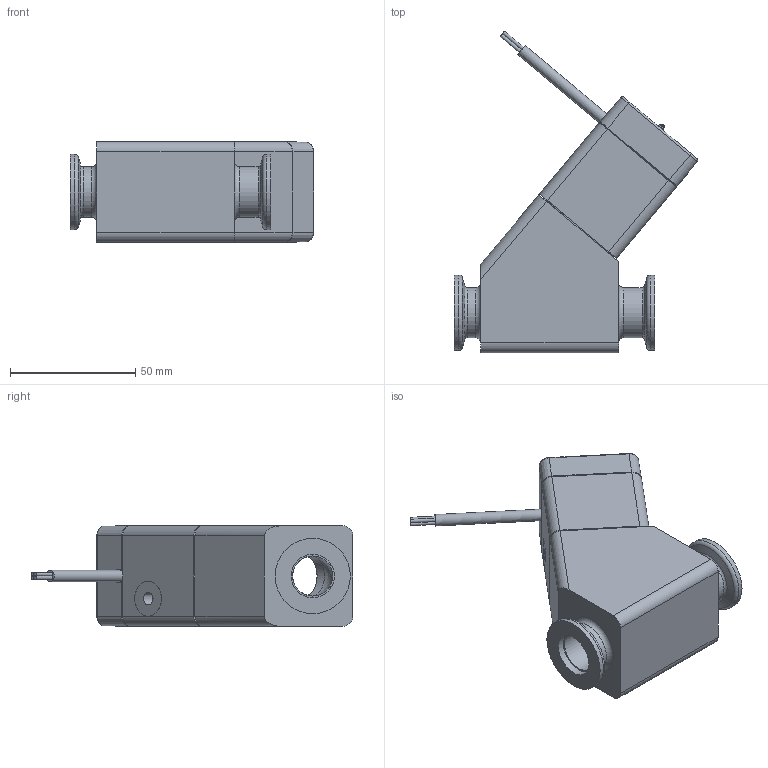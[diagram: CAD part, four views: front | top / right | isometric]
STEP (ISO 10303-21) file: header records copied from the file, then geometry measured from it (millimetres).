
FILE_DESCRIPTION(/* description */ (''),/* implementation_level */ '2;1');
FILE_NAME(/* name */ '1072598406_203.stp',/* time_stamp */ '2013-10-23T08:58:14+02:00',/* author */ (''),/* organization */ (''),/* preprocessor_version */ 'ST-DEVELOPER v11',/* originating_system */ 'SIEMENS PLM Software NX 7.5',/* authorisation */ '');
FILE_SCHEMA (('AP203_CONFIGURATION_CONTROLLED_3D_DESIGN_OF_MECHANICAL_PARTS_AND_ASSEMBLIES_MIM_LF'));
Length unit declared in the file: millimetre
Products named in the file (10): 236208.2; 233364; 239888_6.1; 236204_1.1; 466052; 244224.1; 243880.7; 244168.6; 402885_NX-ARRAGMNTLAGEMELDERZEICHNUNG; 326797.4
Assembly tree (14 placements, depth 3):
  326797.4
    244168.6
    243880.7
    244224.1  x4
    466052
    402885_NX-ARRAGMNTLAGEMELDERZEICHNUNG
      236204_1.1  x2
      239888_6.1
      233364
      236208.2  x2
Bounding box: 97.1 x 128.26 x 40 mm (x, y, z)
Volume: 129056.2 mm3; surface area: 55874.7 mm2
Topology: 21 solids, 21 shells, 597 faces, 1430 edges, 931 vertices
Faces by surface type: plane 337, cylinder 149, cone 68, bspline 25, torus 14, sphere 4
Full cylindrical faces by diameter (mm): 1.4 x8, 2 x7, 2.2 x4, 2.3 x1, 2.36 x4, 2.4 x4, 2.5 x7, 3 x19, 3.4 x4, 4 x2, 4.2 x1, 4.6 x1, 4.7 x3, 4.8 x1, 5 x2, 5.5 x4, 5.6 x2, 6 x4, 6.013 x2, 6.5 x4, 8.85 x1, 14 x1, 16 x3, 17 x1, 17.3 x2, 20 x3, 28 x1, 30 x2, 30.08 x1, 32.35 x1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
Entity records: 16091 total; most frequent: CARTESIAN_POINT 3278, DIRECTION 2278, ORIENTED_EDGE 2040, EDGE_CURVE 1020, AXIS2_PLACEMENT_3D 845, VERTEX_POINT 755, EDGE_LOOP 722, LINE 588
